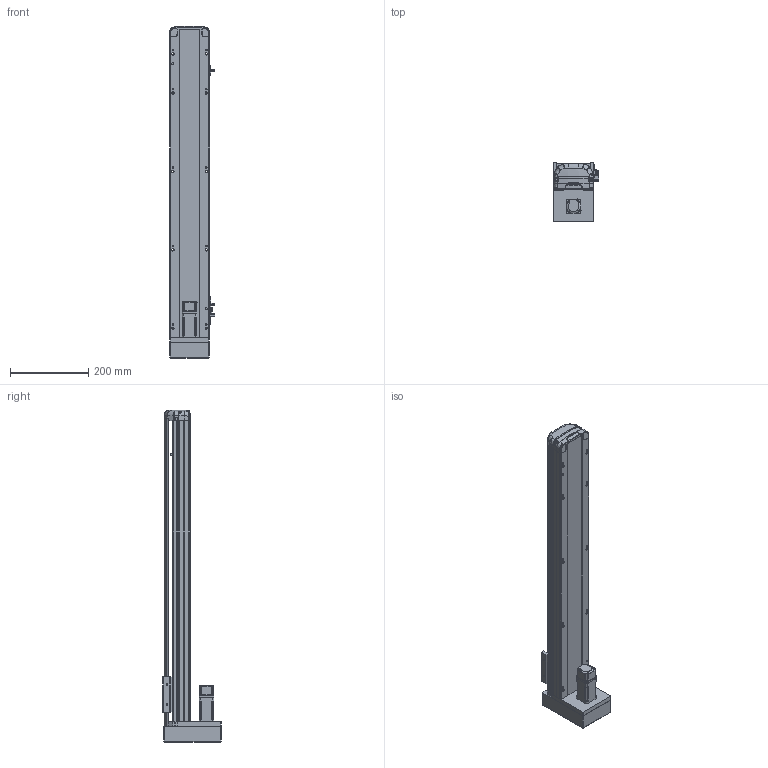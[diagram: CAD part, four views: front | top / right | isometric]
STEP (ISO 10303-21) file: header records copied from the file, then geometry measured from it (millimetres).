
FILE_DESCRIPTION (( 'STEP AP214' ), '1' );
FILE_NAME ('RTH10-XX-600-M-M10-C4.STEP', '2025-10-25T05:45:57', ( 'Microsoft' ), ( 'Microsoft' ), 'SwSTEP 2.0', 'SolidWorks 2018', '' );
FILE_SCHEMA (( 'AUTOMOTIVE_DESIGN' ));
Length unit declared in the file: millimetre
Products named in the file (10): N_RTH12-GY-001P^RTH10-XX-100-M-M10-C4; N_RTH12-M-008-萇儂啣^RTH10-XX-100-M-M10-C4; N_RTH12-M-011P-臏倰第菁釱^RTH10-XX-100-M-M10-C4; RTH10-XX-600-M-M10-C4; N_OMRON EE-SX672 传感器^RTH10-XX-100-M-M10-C4; N_RTH12-M-007P-奻裔^RTH10-XX-100-M-M10-C4; N_RTH12-GY-004-賑釱^RTH10-XX-100-M-M10-C4; N_RTH13-L-012覜茼え俋离^RTH10-XX-100-M-M10-C4; N_RTH12-M-018-裔赽^RTH10-XX-100-M-M10-C4; N_P10^RTH10-XX-100-M-M10-C4
Assembly tree (11 placements, depth 2):
  RTH10-XX-600-M-M10-C4
    N_RTH12-M-011P-臏倰第菁釱^RTH10-XX-100-M-M10-C4
    N_RTH13-L-012覜茼え俋离^RTH10-XX-100-M-M10-C4
    N_OMRON EE-SX672 传感器^RTH10-XX-100-M-M10-C4  x3
    N_P10^RTH10-XX-100-M-M10-C4
    N_RTH12-M-007P-奻裔^RTH10-XX-100-M-M10-C4
    N_RTH12-M-008-萇儂啣^RTH10-XX-100-M-M10-C4
    N_RTH12-M-018-裔赽^RTH10-XX-100-M-M10-C4
    N_RTH12-GY-004-賑釱^RTH10-XX-100-M-M10-C4
    N_RTH12-GY-001P^RTH10-XX-100-M-M10-C4
Bounding box: 116.5 x 149 x 847.14 mm (x, y, z)
Volume: 3942096.7 mm3; surface area: 596095.4 mm2
Topology: 10 solids, 12 shells, 1933 faces, 5395 edges, 3539 vertices
Faces by surface type: plane 955, bspline 472, cylinder 471, cone 29, sphere 4, torus 2
Entity records: 58187 total; most frequent: CARTESIAN_POINT 23167, ORIENTED_EDGE 7862, DIRECTION 6033, EDGE_CURVE 3937, VERTEX_POINT 2583, VECTOR 2071, LINE 2071, AXIS2_PLACEMENT_3D 1981
